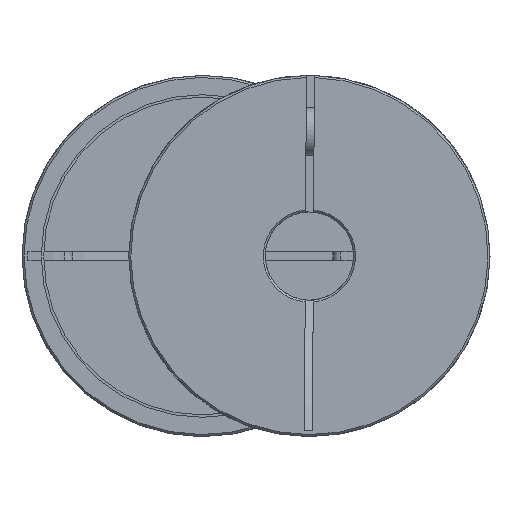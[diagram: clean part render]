
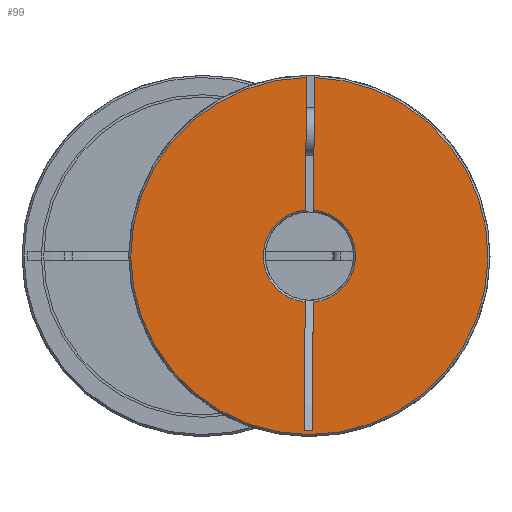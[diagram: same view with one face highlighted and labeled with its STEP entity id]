
A CAD part, left-side view. The second image highlights one B-rep face of the part: STEP entity #99.
In plain terms, the highlighted planar face has unit normal (-1, 0, 0).
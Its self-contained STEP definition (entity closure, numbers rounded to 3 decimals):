
#99 = ADVANCED_FACE( 'NONE', ( #190 ), #191, .F. );
#190 = FACE_OUTER_BOUND( '', #287, .T. );
#191 = PLANE( '', #288 );
#287 = EDGE_LOOP( '', ( #514, #515, #516, #517, #518, #519, #520, #521 ) );
#288 = AXIS2_PLACEMENT_3D( '', #522, #523, #524 );
#514 = ORIENTED_EDGE( '', *, *, #839, .T. );
#515 = ORIENTED_EDGE( '', *, *, #840, .T. );
#516 = ORIENTED_EDGE( '', *, *, #787, .T. );
#517 = ORIENTED_EDGE( '', *, *, #835, .T. );
#518 = ORIENTED_EDGE( '', *, *, #841, .F. );
#519 = ORIENTED_EDGE( '', *, *, #823, .T. );
#520 = ORIENTED_EDGE( '', *, *, #795, .F. );
#521 = ORIENTED_EDGE( '', *, *, #805, .T. );
#522 = CARTESIAN_POINT( '', ( 0., 11., 0. ) );
#523 = DIRECTION( '', ( 1., 0., 0. ) );
#524 = DIRECTION( '', ( 0., 1., 0. ) );
#787 = EDGE_CURVE( 'NONE', #1067, #1068, #1069, .T. );
#795 = EDGE_CURVE( 'NONE', #1082, #1083, #1084, .F. );
#805 = EDGE_CURVE( 'NONE', #1082, #1098, #1100, .T. );
#823 = EDGE_CURVE( 'NONE', #1127, #1083, #1128, .T. );
#835 = EDGE_CURVE( 'NONE', #1068, #1143, #1144, .F. );
#839 = EDGE_CURVE( 'NONE', #1098, #1149, #1150, .T. );
#840 = EDGE_CURVE( 'NONE', #1149, #1067, #1151, .T. );
#841 = EDGE_CURVE( 'NONE', #1127, #1143, #1152, .F. );
#1067 = VERTEX_POINT( 'NONE', #1578 );
#1068 = VERTEX_POINT( 'NONE', #1579 );
#1069 = LINE( '', #1580, #1581 );
#1082 = VERTEX_POINT( 'NONE', #1603 );
#1083 = VERTEX_POINT( 'NONE', #1604 );
#1084 = LINE( '', #1605, #1606 );
#1098 = VERTEX_POINT( 'NONE', #1627 );
#1100 = LINE( '', #1629, #1630 );
#1127 = VERTEX_POINT( 'NONE', #1661 );
#1128 = CIRCLE( '', #1662, 11.5 );
#1143 = VERTEX_POINT( 'NONE', #1780 );
#1144 = CIRCLE( '', #1781, 44.5 );
#1149 = VERTEX_POINT( 'NONE', #1789 );
#1150 = LINE( '', #1790, #1791 );
#1151 = CIRCLE( '', #1792, 11.5 );
#1152 = LINE( '', #1793, #1794 );
#1578 = CARTESIAN_POINT( '', ( 0., -11.456, 1. ) );
#1579 = CARTESIAN_POINT( '', ( 0., -44.489, 1. ) );
#1580 = CARTESIAN_POINT( '', ( 0., 11., 1. ) );
#1581 = VECTOR( '', #1982, 1000. );
#1603 = CARTESIAN_POINT( '', ( 0., 43.508, -1. ) );
#1604 = CARTESIAN_POINT( '', ( 0., 11.456, -1. ) );
#1605 = CARTESIAN_POINT( '', ( 0., -9., -1. ) );
#1606 = VECTOR( '', #1989, 1000. );
#1627 = CARTESIAN_POINT( '', ( 0., 43.508, 1. ) );
#1629 = CARTESIAN_POINT( '', ( 0., 43.508, -1. ) );
#1630 = VECTOR( '', #2003, 1000. );
#1661 = CARTESIAN_POINT( '', ( 0., -11.456, -1. ) );
#1662 = AXIS2_PLACEMENT_3D( '', #2032, #2033, #2034 );
#1780 = CARTESIAN_POINT( '', ( 0., -44.489, -1. ) );
#1781 = AXIS2_PLACEMENT_3D( '', #2045, #2046, #2047 );
#1789 = CARTESIAN_POINT( '', ( 0., 11.456, 1. ) );
#1790 = CARTESIAN_POINT( '', ( 0., 11., 1. ) );
#1791 = VECTOR( '', #2051, 1000. );
#1792 = AXIS2_PLACEMENT_3D( '', #2052, #2053, #2054 );
#1793 = CARTESIAN_POINT( '', ( 0., -9., -1. ) );
#1794 = VECTOR( '', #2055, 1000. );
#1982 = DIRECTION( '', ( 0., -1., 0. ) );
#1989 = DIRECTION( '', ( 0., 1., 0. ) );
#2003 = DIRECTION( '', ( 0., 0., 1. ) );
#2032 = CARTESIAN_POINT( '', ( 0., 0., 0. ) );
#2033 = DIRECTION( '', ( 1., 0., 0. ) );
#2034 = DIRECTION( '', ( 0., 0., -1. ) );
#2045 = CARTESIAN_POINT( '', ( 0., 0., 0. ) );
#2046 = DIRECTION( '', ( 1., 0., 0. ) );
#2047 = DIRECTION( '', ( 0., 0., -1. ) );
#2051 = DIRECTION( '', ( 0., -1., 0. ) );
#2052 = CARTESIAN_POINT( '', ( 0., 0., 0. ) );
#2053 = DIRECTION( '', ( 1., 0., 0. ) );
#2054 = DIRECTION( '', ( 0., 0., -1. ) );
#2055 = DIRECTION( '', ( 0., 1., 0. ) );
